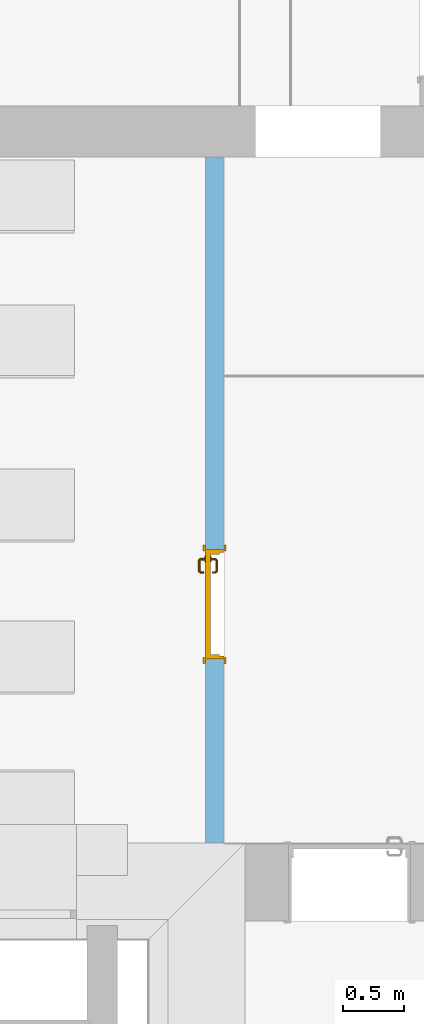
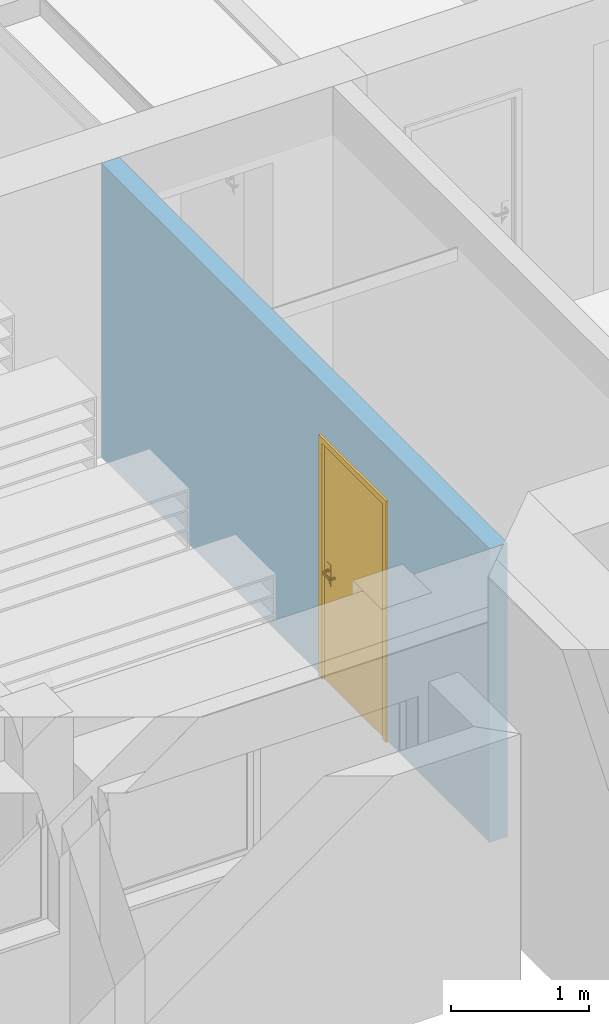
# One storey, part 48 of 127: 1 door, 1 opening, plus 1 element that does not belong to this part.
"""IFC2X3 building model written with IfcOpenShell, lengths in millimetres."""

from ifc_helpers import new_model, entity, si_unit, converted_unit, derived_unit, money_unit, direction, frame, origin_with_axes, origin_2d_with_axis, place, context, subcontext, project, spatial, polyline, rectangle, outline, extrude, open_shell, faceted_brep, surface_model, material, layer, layer_set, layer_usage, type_object, element, fill, save


model = new_model("IFC2X3")

# Units and contexts
model_context = context("Model", 3, precision=1e-05, world=origin_with_axes(), true_north=direction((0.0, 1.0)))
body_context = subcontext(model_context, "Body", "Model", "MODEL_VIEW")
ifc_project = project(units=[si_unit("LENGTHUNIT", "METRE", prefix="MILLI"), si_unit("AREAUNIT", "SQUARE_METRE"), si_unit("VOLUMEUNIT", "CUBIC_METRE"), converted_unit("PLANEANGLEUNIT", "DEGREE", entity("IfcPlaneAngleMeasure", 0.0174532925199), si_unit("PLANEANGLEUNIT", "RADIAN"), dimensions=[0, 0, 0, 0, 0, 0, 0]), si_unit("SOLIDANGLEUNIT", "STERADIAN"), money_unit("EUR"), converted_unit("TIMEUNIT", "Year", entity("IfcTimeMeasure", 31556926.0), si_unit("TIMEUNIT", "SECOND"), dimensions=[0, 0, 1, 0, 0, 0, 0]), si_unit("MASSUNIT", "GRAM", prefix="KILO"), si_unit("THERMODYNAMICTEMPERATUREUNIT", "DEGREE_CELSIUS"), si_unit("LUMINOUSINTENSITYUNIT", "LUMEN"), si_unit("ENERGYUNIT", "JOULE", prefix="MEGA"), derived_unit("THERMALCONDUCTANCEUNIT", [(si_unit("POWERUNIT", "WATT"), 1), (si_unit("LENGTHUNIT", "METRE"), -1), (si_unit("THERMODYNAMICTEMPERATUREUNIT", "KELVIN"), -1)]), derived_unit("SPECIFICHEATCAPACITYUNIT", [(si_unit("ENERGYUNIT", "JOULE"), 1), (si_unit("MASSUNIT", "GRAM", prefix="KILO"), -1), (si_unit("THERMODYNAMICTEMPERATUREUNIT", "KELVIN"), -1)]), derived_unit("MASSDENSITYUNIT", [(si_unit("MASSUNIT", "GRAM", prefix="KILO"), 1), (si_unit("VOLUMEUNIT", "CUBIC_METRE"), -1)])], contexts=[model_context])

# Site, building, storey
site_placement = place(None, origin_with_axes())
site = spatial("IfcSite", under=ifc_project, at=site_placement, Name="Site", CompositionType="ELEMENT")
building_placement = place(site_placement, origin_with_axes())
building = spatial("IfcBuilding", under=site, at=building_placement, Name="Building", CompositionType="ELEMENT")
storey_placement = place(building_placement, origin_with_axes())
storey = spatial("IfcBuildingStorey", under=building, at=storey_placement, Name="1 KORRUS", CompositionType="ELEMENT", Elevation=0.0)

# Wall, opening, door
ifc_material = material(Name="Kivi -Ol.Olev Konstruktsioon")
ifc_layer = layer(ifc_material, 150.0, ventilated="UNKNOWN")
ifc_layer_set = layer_set([ifc_layer], Name="ol.olev ss 150")
ifc_layer_usage = layer_usage(ifc_layer_set, "AXIS2", "POSITIVE", 0.0)
wall_type = type_object("IfcWallType", Name="SW - 036", PredefinedType="NOTDEFINED")
wall_placement = place(storey_placement, frame((37793.462216, 65636.3690561, 0.0), z_axis=(0.0, 0.0, 1.0), x_axis=(0.0, -1.0, 0.0)))
wall = element("IfcWallStandardCase", 1, at=wall_placement, inside=storey, type_object=wall_type, material=ifc_layer_usage, Name="ol.olev ss 150", context=body_context, shape_type="SweptSolid", body=[
    extrude(outline(polyline([(420.0, 0.0), (6047.24114854, 0.0), (6047.24114854, 150.0), (420.0, 150.0), (420.0, 0.0)])), origin_with_axes(), (0.0, 0.0, 1.0), 2600.0),
])
opening_placement = place(wall_placement, frame((4090.35977759, 0.0, 0.0), z_axis=(0.0, 0.0, 1.0), x_axis=(1.0, 0.0, 0.0)))
opening = element("IfcOpeningElement", 2, at=opening_placement, cuts=wall, Name="Siseuks * Door 22", context=body_context, shape_type="SweptSolid", body=[
    extrude(rectangle(XDim=900.0, YDim=2100.0, at=origin_2d_with_axis()), frame((0.0, 150.0, 1050.0), z_axis=(0.0, 1.0, 0.0), x_axis=(1.0, 0.0, 0.0)), (0.0, 0.0, -1.0), 450.0),
    extrude(rectangle(XDim=974.0, YDim=2137.0, at=origin_2d_with_axis()), frame((0.0, 150.0, 1068.5), z_axis=(0.0, 1.0, 0.0), x_axis=(1.0, 0.0, 0.0)), (0.0, 0.0, 1.0), 150.0),
    extrude(rectangle(XDim=974.0, YDim=2137.0, at=origin_2d_with_axis()), frame((0.0, 0.0, 1068.5), z_axis=(0.0, -1.0, 0.0), x_axis=(1.0, 0.0, 0.0)), (0.0, 0.0, 1.0), 150.0),
])
door_style = type_object("IfcDoorStyle", Name="SU-A116   900×2\xa0100", ConstructionType="NOTDEFINED", OperationType="SINGLE_SWING_LEFT", ParameterTakesPrecedence=False, Sizeable=False)
door_placement = place(opening_placement, frame((450.0, 0.0, 0.0), z_axis=(0.0, 0.0, 1.0), x_axis=(-1.0, 0.0, 0.0)))
door = element("IfcDoor", 3, at=door_placement, inside=storey, type_object=door_style, Name="Siseuks * Door 22", OverallHeight=2100.0, OverallWidth=900.0, context=body_context, shape_type="SurfaceModel", body=[
    faceted_brep([(900.0, -115.0, 0.0), (900.0, -150.0, 0.0), (875.0, -150.0, 0.0), (875.0, -115.0, 0.0), (900.0, -115.0, 2100.0), (900.0, -150.0, 2100.0), (875.0, -150.0, 2075.0), (875.0, -115.0, 2075.0)], [[[0, 1, 2, 3]], [[4, 5, 1, 0]], [[1, 5, 6, 2]], [[3, 2, 6, 7]], [[0, 3, 7, 4]], [[7, 6, 5, 4]]]),
    faceted_brep([(0.0, -115.0, 2100.0), (0.0, -150.0, 2100.0), (24.9999999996, -150.0, 2075.0), (24.9999999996, -115.0, 2075.0), (0.0, -115.0, 0.0), (0.0, -150.0, 0.0), (24.9999999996, -150.0, 0.0), (24.9999999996, -115.0, 0.0)], [[[0, 1, 2, 3]], [[4, 5, 1, 0]], [[1, 5, 6, 2]], [[3, 2, 6, 7]], [[0, 3, 7, 4]], [[7, 6, 5, 4]]]),
    faceted_brep([(875.0, -115.0, 2075.0), (875.0, -150.0, 2075.0), (24.9999999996, -150.0, 2075.0), (24.9999999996, -115.0, 2075.0), (900.0, -115.0, 2100.0), (900.0, -150.0, 2100.0), (0.0, -150.0, 2100.0), (0.0, -115.0, 2100.0)], [[[0, 1, 2, 3]], [[4, 5, 1, 0]], [[1, 5, 6, 2]], [[3, 2, 6, 7]], [[0, 3, 7, 4]], [[7, 6, 5, 4]]]),
    faceted_brep([(937.0, -169.0, 0.0), (887.0, -169.0, 0.0), (887.0, -150.0, 0.0), (937.0, -150.0, 0.0), (937.0, -169.0, 2137.0), (887.0, -169.0, 2087.0), (887.0, -150.0, 2087.0), (937.0, -150.0, 2137.0)], [[[0, 1, 2, 3]], [[0, 4, 5, 1]], [[1, 5, 6, 2]], [[3, 2, 6, 7]], [[4, 0, 3, 7]], [[5, 4, 7, 6]]]),
    faceted_brep([(-37.0000000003, -169.0, 2137.0), (12.9999999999, -169.0, 2087.0), (12.9999999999, -150.0, 2087.0), (-37.0000000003, -150.0, 2137.0), (-37.0000000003, -169.0, 0.0), (12.9999999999, -169.0, 0.0), (12.9999999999, -150.0, 0.0), (-37.0000000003, -150.0, 0.0)], [[[0, 1, 2, 3]], [[0, 4, 5, 1]], [[1, 5, 6, 2]], [[3, 2, 6, 7]], [[4, 0, 3, 7]], [[5, 4, 7, 6]]]),
    faceted_brep([(937.0, -169.0, 2137.0), (887.0, -169.0, 2087.0), (887.0, -150.0, 2087.0), (937.0, -150.0, 2137.0), (-37.0000000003, -169.0, 2137.0), (12.9999999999, -169.0, 2087.0), (12.9999999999, -150.0, 2087.0), (-37.0000000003, -150.0, 2137.0)], [[[0, 1, 2, 3]], [[0, 4, 5, 1]], [[1, 5, 6, 2]], [[3, 2, 6, 7]], [[4, 0, 3, 7]], [[5, 4, 7, 6]]]),
    faceted_brep([(937.0, 19.0, 0.0), (937.0, 0.0, 0.0), (887.0, 0.0, 0.0), (887.0, 19.0, 0.0), (937.0, 19.0, 2137.0), (937.0, 0.0, 2137.0), (887.0, 0.0, 2087.0), (887.0, 19.0, 2087.0)], [[[0, 1, 2, 3]], [[4, 5, 1, 0]], [[1, 5, 6, 2]], [[3, 2, 6, 7]], [[0, 3, 7, 4]], [[7, 6, 5, 4]]]),
    faceted_brep([(-37.0000000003, 19.0, 2137.0), (-37.0000000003, 0.0, 2137.0), (12.9999999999, 0.0, 2087.0), (12.9999999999, 19.0, 2087.0), (-37.0000000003, 19.0, 0.0), (-37.0000000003, 0.0, 0.0), (12.9999999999, 0.0, 0.0), (12.9999999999, 19.0, 0.0)], [[[0, 1, 2, 3]], [[4, 5, 1, 0]], [[1, 5, 6, 2]], [[3, 2, 6, 7]], [[0, 3, 7, 4]], [[7, 6, 5, 4]]]),
    faceted_brep([(937.0, 19.0, 2137.0), (937.0, 0.0, 2137.0), (887.0, 0.0, 2087.0), (887.0, 19.0, 2087.0), (-37.0000000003, 19.0, 2137.0), (-37.0000000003, 0.0, 2137.0), (12.9999999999, 0.0, 2087.0), (12.9999999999, 19.0, 2087.0)], [[[0, 1, 2, 3]], [[4, 5, 1, 0]], [[1, 5, 6, 2]], [[3, 2, 6, 7]], [[0, 3, 7, 4]], [[7, 6, 5, 4]]]),
    faceted_brep([(860.0, -40.0, 0.0), (860.0, -115.0, 0.0), (860.0, -115.0, 2060.0), (860.0, -40.0, 2060.0), (871.999999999, -40.0, 0.0), (871.999999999, 0.0, 0.0), (900.0, 0.0, 0.0), (900.0, -115.0, 0.0), (900.0, -115.0, 2060.0), (871.999999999, -40.0, 2060.0), (900.0, 0.0, 2060.0), (871.999999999, 0.0, 2060.0)], [[[0, 1, 2, 3]], [[4, 5, 6, 7, 1, 0]], [[1, 7, 8, 2]], [[9, 3, 2, 8, 10, 11]], [[9, 4, 0, 3]], [[11, 5, 4, 9]], [[11, 10, 6, 5]], [[6, 10, 8, 7]]]),
    faceted_brep([(28.0000000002, -40.0, 2060.0), (28.0000000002, 0.0, 2060.0), (0.0, 0.0, 2060.0), (0.0, -115.0, 2060.0), (40.0, -115.0, 2060.0), (40.0, -40.0, 2060.0), (28.0000000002, -40.0, 0.0), (28.0000000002, 0.0, 0.0), (0.0, 0.0, 0.0), (0.0, -115.0, 0.0), (40.0, -115.0, 0.0), (40.0, -40.0, 0.0)], [[[0, 1, 2, 3, 4, 5]], [[0, 6, 7, 1]], [[7, 8, 2, 1]], [[2, 8, 9, 3]], [[3, 9, 10, 4]], [[5, 4, 10, 11]], [[5, 11, 6, 0]], [[6, 11, 10, 9, 8, 7]]]),
    faceted_brep([(871.999999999, 0.0, 2072.0), (28.0000000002, 0.0, 2072.0), (28.0000000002, 0.0, 2060.0), (0.0, 0.0, 2060.0), (0.0, 0.0, 2100.0), (900.0, 0.0, 2100.0), (900.0, 0.0, 2060.0), (871.999999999, 0.0, 2060.0), (871.999999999, -40.0, 2072.0), (28.0000000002, -40.0, 2072.0), (28.0000000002, -40.0, 2060.0), (40.0, -40.0, 2060.0), (40.0, -115.0, 2060.0), (0.0, -115.0, 2060.0), (0.0, -115.0, 2100.0), (900.0, -115.0, 2100.0), (900.0, -115.0, 2060.0), (871.999999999, -40.0, 2060.0), (860.0, -115.0, 2060.0), (860.0, -40.0, 2060.0)], [[[0, 1, 2, 3, 4, 5, 6, 7]], [[0, 8, 9, 1]], [[1, 9, 10, 2]], [[10, 11, 12, 13, 3, 2]], [[4, 3, 13, 14]], [[5, 4, 14, 15]], [[6, 5, 15, 16]], [[17, 7, 6, 16, 18, 19]], [[7, 17, 8, 0]], [[10, 9, 8, 17, 19, 11]], [[19, 18, 12, 11]], [[12, 18, 16, 15, 14, 13]]]),
    faceted_brep([(850.5, -40.0, 1060.0), (793.5, -40.0, 1060.0), (793.5, -43.0, 1060.0), (850.5, -43.0, 1060.0), (850.5, -40.0, 870.0), (793.5, -40.0, 870.0), (793.5, -43.0, 870.0), (850.5, -43.0, 870.0)], [[[0, 1, 2, 3]], [[0, 4, 5, 1]], [[1, 5, 6, 2]], [[3, 2, 6, 7]], [[4, 0, 3, 7]], [[5, 4, 7, 6]]]),
    surface_model("IfcShellBasedSurfaceModel", [(812.0, -53.0, 1000.0), (814.928932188, -53.0, 992.928932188), (814.928932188, -72.303560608, 992.928932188), (812.0, -72.0150859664, 1000.0), (822.0, -53.0, 990.0), (822.0, -73.0, 990.0), (813.816790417, -77.8946748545, 992.928932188), (811.057796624, -76.7518622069, 1000.0), (814.928932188, -53.0, 1007.07106781), (814.928932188, -72.303560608, 1007.07106781), (829.071067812, -53.0, 992.928932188), (829.071067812, -73.6964393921, 992.928932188), (820.47759065, -80.6536686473, 990.0), (811.044179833, -82.0441798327, 992.928932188), (808.932537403, -79.9325374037, 1000.0), (813.816790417, -77.8946748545, 1007.07106781), (822.0, -53.0, 1010.0), (822.0, -73.0, 1010.0), (831.999999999, -53.0, 1000.0), (831.999999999, -73.9849140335, 1000.0), (827.138390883, -83.4126624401, 992.928932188), (816.142135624, -87.1421356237, 990.0), (806.894674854, -84.8167904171, 992.928932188), (805.751862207, -82.0577966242, 1000.0), (811.044179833, -82.0441798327, 1007.07106781), (820.47759065, -80.6536686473, 1010.0), (829.071067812, -53.0, 1007.07106781), (829.071067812, -73.6964393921, 1007.07106781), (829.897384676, -84.5554750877, 1000.0), (821.240091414, -92.2400914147, 992.928932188), (809.653668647, -91.4775906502, 990.0), (801.303560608, -85.9289321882, 992.928932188), (801.015085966, -83.0, 1000.0), (806.894674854, -84.8167904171, 1007.07106781), (816.142135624, -87.1421356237, 1010.0), (827.138390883, -83.4126624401, 1007.07106781), (823.351733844, -94.3517338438, 1000.0), (812.41266244, -98.1383908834, 992.928932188), (802.0, -93.0, 990.0), (732.696439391, -85.9289321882, 992.928932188), (732.984914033, -83.0, 1000.0), (801.303560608, -85.9289321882, 1007.07106781), (809.653668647, -91.4775906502, 1010.0), (821.240091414, -92.2400914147, 1007.07106781), (813.555475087, -100.897384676, 1000.0), (802.696439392, -100.071067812, 992.928932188), (732.0, -93.0, 990.0), (727.105325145, -84.8167904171, 992.928932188), (728.248137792, -82.0577966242, 1000.0), (732.696439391, -85.9289321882, 1007.07106781), (802.0, -93.0, 1010.0), (812.41266244, -98.1383908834, 1007.07106781), (802.984914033, -103.0, 1000.0), (731.303560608, -100.071067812, 992.928932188), (724.346331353, -91.4775906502, 990.0), (722.955820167, -82.0441798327, 992.928932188), (725.067462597, -79.9325374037, 1000.0), (727.105325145, -84.8167904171, 1007.07106781), (732.0, -93.0, 1010.0), (802.696439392, -100.071067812, 1007.07106781), (731.015085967, -103.0, 1000.0), (721.58733756, -98.1383908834, 992.928932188), (717.857864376, -87.1421356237, 990.0), (720.183209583, -77.8946748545, 992.928932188), (722.942203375, -76.7518622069, 1000.0), (722.955820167, -82.0441798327, 1007.07106781), (724.346331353, -91.4775906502, 1010.0), (731.303560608, -100.071067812, 1007.07106781), (720.444524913, -100.897384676, 1000.0), (712.759908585, -92.2400914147, 992.928932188), (713.52240935, -80.6536686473, 990.0), (719.071067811, -72.303560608, 992.928932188), (722.0, -72.0150859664, 1000.0), (720.183209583, -77.8946748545, 1007.07106781), (717.857864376, -87.1421356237, 1010.0), (721.58733756, -98.1383908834, 1007.07106781), (710.648266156, -94.3517338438, 1000.0), (706.861609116, -83.4126624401, 992.928932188), (712.0, -73.0, 990.0), (719.071067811, -53.0, 992.928932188), (722.0, -53.0, 1000.0), (719.071067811, -72.303560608, 1007.07106781), (713.52240935, -80.6536686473, 1010.0), (712.759908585, -92.2400914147, 1007.07106781), (704.102615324, -84.5554750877, 1000.0), (704.928932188, -73.6964393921, 992.928932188), (712.0, -53.0, 990.0), (704.928932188, -53.0, 992.928932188), (702.0, -53.0, 1000.0), (704.928932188, -53.0, 1007.07106781), (712.0, -53.0, 1010.0), (719.071067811, -53.0, 1007.07106781), (712.0, -73.0, 1010.0), (706.861609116, -83.4126624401, 1007.07106781), (702.0, -73.9849140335, 1000.0), (704.928932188, -73.6964393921, 1007.07106781)], [open_shell([[[0, 1, 2, 3]], [[1, 4, 5, 2]], [[3, 2, 6, 7]], [[8, 0, 3, 9]], [[4, 10, 11, 5]], [[2, 5, 12, 6]], [[7, 6, 13, 14]], [[9, 3, 7, 15]], [[16, 8, 9, 17]], [[10, 18, 19, 11]], [[5, 11, 20, 12]], [[6, 12, 21, 13]], [[14, 13, 22, 23]], [[15, 7, 14, 24]], [[17, 9, 15, 25]], [[26, 16, 17, 27]], [[18, 26, 27, 19]], [[11, 19, 28, 20]], [[12, 20, 29, 21]], [[13, 21, 30, 22]], [[23, 22, 31, 32]], [[24, 14, 23, 33]], [[25, 15, 24, 34]], [[27, 17, 25, 35]], [[19, 27, 35, 28]], [[20, 28, 36, 29]], [[21, 29, 37, 30]], [[22, 30, 38, 31]], [[32, 31, 39, 40]], [[33, 23, 32, 41]], [[34, 24, 33, 42]], [[35, 25, 34, 43]], [[28, 35, 43, 36]], [[29, 36, 44, 37]], [[30, 37, 45, 38]], [[31, 38, 46, 39]], [[40, 39, 47, 48]], [[41, 32, 40, 49]], [[42, 33, 41, 50]], [[43, 34, 42, 51]], [[36, 43, 51, 44]], [[37, 44, 52, 45]], [[38, 45, 53, 46]], [[39, 46, 54, 47]], [[48, 47, 55, 56]], [[49, 40, 48, 57]], [[50, 41, 49, 58]], [[51, 42, 50, 59]], [[44, 51, 59, 52]], [[45, 52, 60, 53]], [[46, 53, 61, 54]], [[47, 54, 62, 55]], [[56, 55, 63, 64]], [[57, 48, 56, 65]], [[58, 49, 57, 66]], [[59, 50, 58, 67]], [[52, 59, 67, 60]], [[53, 60, 68, 61]], [[54, 61, 69, 62]], [[55, 62, 70, 63]], [[64, 63, 71, 72]], [[65, 56, 64, 73]], [[66, 57, 65, 74]], [[67, 58, 66, 75]], [[60, 67, 75, 68]], [[61, 68, 76, 69]], [[62, 69, 77, 70]], [[63, 70, 78, 71]], [[72, 71, 79, 80]], [[73, 64, 72, 81]], [[74, 65, 73, 82]], [[75, 66, 74, 83]], [[68, 75, 83, 76]], [[69, 76, 84, 77]], [[70, 77, 85, 78]], [[71, 78, 86, 79]], [[80, 79, 86, 87, 88, 89, 90, 91]], [[81, 72, 80, 91]], [[82, 73, 81, 92]], [[83, 74, 82, 93]], [[76, 83, 93, 84]], [[77, 84, 94, 85]], [[78, 85, 87, 86]], [[85, 94, 88, 87]], [[94, 95, 89, 88]], [[95, 92, 90, 89]], [[92, 81, 91, 90]], [[93, 82, 92, 95]], [[84, 93, 95, 94]]])]),
    faceted_brep([(811.607695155, -53.0, 994.0), (809.999999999, -53.0, 1000.0), (809.0, -43.0, 1000.0), (810.74166975, -43.0, 993.5), (816.0, -53.0, 989.607695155), (822.0, -53.0, 988.0), (828.0, -53.0, 989.607695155), (832.392304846, -53.0, 994.0), (834.0, -53.0, 1000.0), (832.392304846, -53.0, 1006.0), (828.0, -53.0, 1010.39230485), (822.0, -53.0, 1012.0), (816.0, -53.0, 1010.39230485), (811.607695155, -53.0, 1006.0), (810.74166975, -43.0, 1006.5), (815.5, -43.0, 1011.25833025), (822.0, -43.0, 1013.0), (828.5, -43.0, 1011.25833025), (833.258330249, -43.0, 1006.5), (835.0, -43.0, 1000.0), (833.258330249, -43.0, 993.5), (828.5, -43.0, 988.741669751), (822.0, -43.0, 987.0), (815.5, -43.0, 988.741669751)], [[[0, 1, 2, 3]], [[1, 0, 4, 5, 6, 7, 8, 9, 10, 11, 12, 13]], [[1, 13, 14, 2]], [[2, 14, 15, 16, 17, 18, 19, 20, 21, 22, 23, 3]], [[4, 0, 3, 23]], [[5, 4, 23, 22]], [[6, 5, 22, 21]], [[7, 6, 21, 20]], [[8, 7, 20, 19]], [[9, 8, 19, 18]], [[10, 9, 18, 17]], [[11, 10, 17, 16]], [[12, 11, 16, 15]], [[13, 12, 15, 14]]]),
    faceted_brep([(804.679491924, -47.0, 895.0), (802.0, -47.0, 905.0), (800.0, -43.0, 905.0), (802.947441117, -43.0, 894.0), (812.0, -47.0, 887.679491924), (822.0, -47.0, 885.0), (831.999999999, -47.0, 887.679491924), (839.320508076, -47.0, 895.0), (842.0, -47.0, 905.0), (839.320508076, -47.0, 915.0), (831.999999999, -47.0, 922.320508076), (822.0, -47.0, 925.0), (812.0, -47.0, 922.320508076), (804.679491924, -47.0, 915.0), (802.947441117, -43.0, 916.0), (811.0, -43.0, 924.052558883), (822.0, -43.0, 927.0), (833.0, -43.0, 924.052558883), (841.052558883, -43.0, 916.0), (844.0, -43.0, 905.0), (841.052558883, -43.0, 894.0), (833.0, -43.0, 885.947441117), (822.0, -43.0, 883.0), (811.0, -43.0, 885.947441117)], [[[0, 1, 2, 3]], [[1, 0, 4, 5, 6, 7, 8, 9, 10, 11, 12, 13]], [[1, 13, 14, 2]], [[2, 14, 15, 16, 17, 18, 19, 20, 21, 22, 23, 3]], [[4, 0, 3, 23]], [[5, 4, 23, 22]], [[6, 5, 22, 21]], [[7, 6, 21, 20]], [[8, 7, 20, 19]], [[9, 8, 19, 18]], [[10, 9, 18, 17]], [[11, 10, 17, 16]], [[12, 11, 16, 15]], [[13, 12, 15, 14]]]),
    faceted_brep([(817.050252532, -49.0, 909.050252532), (815.0, -49.0, 914.0), (813.999999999, -47.0, 914.0), (816.343145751, -47.0, 908.343145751), (822.0, -49.0, 907.0), (826.949747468, -49.0, 909.050252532), (829.0, -49.0, 914.0), (826.949747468, -49.0, 918.949747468), (822.0, -49.0, 921.0), (817.050252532, -49.0, 918.949747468), (816.343145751, -47.0, 919.656854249), (822.0, -47.0, 922.0), (827.65685425, -47.0, 919.656854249), (830.0, -47.0, 914.0), (827.65685425, -47.0, 908.343145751), (822.0, -47.0, 906.0)], [[[0, 1, 2, 3]], [[1, 0, 4, 5, 6, 7, 8, 9]], [[1, 9, 10, 2]], [[2, 10, 11, 12, 13, 14, 15, 3]], [[4, 0, 3, 15]], [[5, 4, 15, 14]], [[6, 5, 14, 13]], [[7, 6, 13, 12]], [[8, 7, 12, 11]], [[9, 8, 11, 10]]]),
    faceted_brep([(850.5, 0.0, 1060.0), (850.5, 3.00000000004, 1060.0), (793.5, 3.00000000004, 1060.0), (793.5, 0.0, 1060.0), (850.5, 0.0, 870.0), (850.5, 3.00000000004, 870.0), (793.5, 3.00000000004, 870.0), (793.5, 0.0, 870.0)], [[[0, 1, 2, 3]], [[4, 5, 1, 0]], [[1, 5, 6, 2]], [[3, 2, 6, 7]], [[0, 3, 7, 4]], [[7, 6, 5, 4]]]),
    surface_model("IfcShellBasedSurfaceModel", [(812.0, 13.0, 1000.0), (812.0, 32.0150859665, 1000.0), (814.928932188, 32.3035606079, 992.928932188), (814.928932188, 13.0, 992.928932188), (814.928932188, 13.0, 1007.07106781), (814.928932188, 32.3035606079, 1007.07106781), (811.057796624, 36.751862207, 1000.0), (813.816790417, 37.8946748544, 992.928932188), (822.0, 33.0, 990.0), (822.0, 13.0, 990.0), (822.0, 13.0, 1010.0), (822.0, 33.0, 1010.0), (813.816790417, 37.8946748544, 1007.07106781), (808.932537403, 39.9325374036, 1000.0), (811.044179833, 42.0441798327, 992.928932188), (820.47759065, 40.6536686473, 990.0), (829.071067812, 33.696439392, 992.928932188), (829.071067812, 13.0, 992.928932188), (829.071067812, 13.0, 1007.07106781), (829.071067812, 33.696439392, 1007.07106781), (820.47759065, 40.6536686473, 1010.0), (811.044179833, 42.0441798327, 1007.07106781), (805.751862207, 42.0577966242, 1000.0), (806.894674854, 44.816790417, 992.928932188), (816.142135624, 47.1421356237, 990.0), (827.138390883, 43.4126624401, 992.928932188), (831.999999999, 33.9849140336, 1000.0), (831.999999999, 13.0, 1000.0), (827.138390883, 43.4126624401, 1007.07106781), (816.142135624, 47.1421356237, 1010.0), (806.894674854, 44.816790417, 1007.07106781), (801.015085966, 43.0, 1000.0), (801.303560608, 45.9289321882, 992.928932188), (809.653668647, 51.4775906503, 990.0), (821.240091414, 52.2400914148, 992.928932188), (829.897384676, 44.5554750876, 1000.0), (821.240091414, 52.2400914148, 1007.07106781), (809.653668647, 51.4775906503, 1010.0), (801.303560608, 45.9289321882, 1007.07106781), (732.984914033, 43.0, 1000.0), (732.696439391, 45.9289321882, 992.928932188), (802.0, 53.0, 990.0), (812.41266244, 58.1383908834, 992.928932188), (823.351733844, 54.3517338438, 1000.0), (812.41266244, 58.1383908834, 1007.07106781), (802.0, 53.0, 1010.0), (732.696439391, 45.9289321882, 1007.07106781), (728.248137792, 42.0577966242, 1000.0), (727.105325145, 44.816790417, 992.928932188), (732.0, 53.0, 990.0), (802.696439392, 60.0710678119, 992.928932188), (813.555475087, 60.8973846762, 1000.0), (802.696439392, 60.0710678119, 1007.07106781), (732.0, 53.0, 1010.0), (727.105325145, 44.816790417, 1007.07106781), (725.067462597, 39.9325374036, 1000.0), (722.955820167, 42.0441798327, 992.928932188), (724.346331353, 51.4775906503, 990.0), (731.303560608, 60.0710678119, 992.928932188), (802.984914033, 63.0, 1000.0), (731.303560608, 60.0710678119, 1007.07106781), (724.346331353, 51.4775906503, 1010.0), (722.955820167, 42.0441798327, 1007.07106781), (722.942203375, 36.751862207, 1000.0), (720.183209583, 37.8946748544, 992.928932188), (717.857864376, 47.1421356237, 990.0), (721.58733756, 58.1383908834, 992.928932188), (731.015085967, 63.0, 1000.0), (721.58733756, 58.1383908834, 1007.07106781), (717.857864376, 47.1421356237, 1010.0), (720.183209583, 37.8946748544, 1007.07106781), (722.0, 32.0150859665, 1000.0), (719.071067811, 32.3035606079, 992.928932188), (713.52240935, 40.6536686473, 990.0), (712.759908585, 52.2400914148, 992.928932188), (720.444524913, 60.8973846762, 1000.0), (712.759908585, 52.2400914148, 1007.07106781), (713.52240935, 40.6536686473, 1010.0), (719.071067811, 32.3035606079, 1007.07106781), (722.0, 13.0, 1000.0), (719.071067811, 13.0, 992.928932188), (712.0, 33.0, 990.0), (706.861609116, 43.4126624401, 992.928932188), (710.648266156, 54.3517338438, 1000.0), (706.861609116, 43.4126624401, 1007.07106781), (712.0, 33.0, 1010.0), (719.071067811, 13.0, 1007.07106781), (712.0, 13.0, 1010.0), (704.928932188, 13.0, 1007.07106781), (702.0, 13.0, 1000.0), (704.928932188, 13.0, 992.928932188), (712.0, 13.0, 990.0), (704.928932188, 33.696439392, 992.928932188), (704.102615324, 44.5554750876, 1000.0), (704.928932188, 33.696439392, 1007.07106781), (702.0, 33.9849140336, 1000.0)], [open_shell([[[0, 1, 2, 3]], [[4, 5, 1, 0]], [[1, 6, 7, 2]], [[3, 2, 8, 9]], [[10, 11, 5, 4]], [[5, 12, 6, 1]], [[6, 13, 14, 7]], [[2, 7, 15, 8]], [[9, 8, 16, 17]], [[18, 19, 11, 10]], [[11, 20, 12, 5]], [[12, 21, 13, 6]], [[13, 22, 23, 14]], [[7, 14, 24, 15]], [[8, 15, 25, 16]], [[17, 16, 26, 27]], [[27, 26, 19, 18]], [[19, 28, 20, 11]], [[20, 29, 21, 12]], [[21, 30, 22, 13]], [[22, 31, 32, 23]], [[14, 23, 33, 24]], [[15, 24, 34, 25]], [[16, 25, 35, 26]], [[26, 35, 28, 19]], [[28, 36, 29, 20]], [[29, 37, 30, 21]], [[30, 38, 31, 22]], [[31, 39, 40, 32]], [[23, 32, 41, 33]], [[24, 33, 42, 34]], [[25, 34, 43, 35]], [[35, 43, 36, 28]], [[36, 44, 37, 29]], [[37, 45, 38, 30]], [[38, 46, 39, 31]], [[39, 47, 48, 40]], [[32, 40, 49, 41]], [[33, 41, 50, 42]], [[34, 42, 51, 43]], [[43, 51, 44, 36]], [[44, 52, 45, 37]], [[45, 53, 46, 38]], [[46, 54, 47, 39]], [[47, 55, 56, 48]], [[40, 48, 57, 49]], [[41, 49, 58, 50]], [[42, 50, 59, 51]], [[51, 59, 52, 44]], [[52, 60, 53, 45]], [[53, 61, 54, 46]], [[54, 62, 55, 47]], [[55, 63, 64, 56]], [[48, 56, 65, 57]], [[49, 57, 66, 58]], [[50, 58, 67, 59]], [[59, 67, 60, 52]], [[60, 68, 61, 53]], [[61, 69, 62, 54]], [[62, 70, 63, 55]], [[63, 71, 72, 64]], [[56, 64, 73, 65]], [[57, 65, 74, 66]], [[58, 66, 75, 67]], [[67, 75, 68, 60]], [[68, 76, 69, 61]], [[69, 77, 70, 62]], [[70, 78, 71, 63]], [[71, 79, 80, 72]], [[64, 72, 81, 73]], [[65, 73, 82, 74]], [[66, 74, 83, 75]], [[75, 83, 76, 68]], [[76, 84, 77, 69]], [[77, 85, 78, 70]], [[78, 86, 79, 71]], [[79, 86, 87, 88, 89, 90, 91, 80]], [[72, 80, 91, 81]], [[73, 81, 92, 82]], [[74, 82, 93, 83]], [[83, 93, 84, 76]], [[84, 94, 85, 77]], [[85, 87, 86, 78]], [[94, 88, 87, 85]], [[95, 89, 88, 94]], [[92, 90, 89, 95]], [[81, 91, 90, 92]], [[82, 92, 95, 93]], [[93, 95, 94, 84]]])]),
    faceted_brep([(811.607695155, 13.0, 994.0), (810.74166975, 3.00000000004, 993.5), (809.0, 3.00000000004, 1000.0), (809.999999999, 13.0, 1000.0), (816.0, 13.0, 989.607695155), (815.5, 3.00000000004, 988.741669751), (822.0, 3.00000000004, 987.0), (828.5, 3.00000000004, 988.741669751), (833.258330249, 3.00000000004, 993.5), (835.0, 3.00000000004, 1000.0), (833.258330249, 3.00000000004, 1006.5), (828.5, 3.00000000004, 1011.25833025), (822.0, 3.00000000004, 1013.0), (815.5, 3.00000000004, 1011.25833025), (810.74166975, 3.00000000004, 1006.5), (811.607695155, 13.0, 1006.0), (816.0, 13.0, 1010.39230485), (822.0, 13.0, 1012.0), (828.0, 13.0, 1010.39230485), (832.392304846, 13.0, 1006.0), (834.0, 13.0, 1000.0), (832.392304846, 13.0, 994.0), (828.0, 13.0, 989.607695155), (822.0, 13.0, 988.0)], [[[0, 1, 2, 3]], [[4, 5, 1, 0]], [[2, 1, 5, 6, 7, 8, 9, 10, 11, 12, 13, 14]], [[3, 2, 14, 15]], [[3, 15, 16, 17, 18, 19, 20, 21, 22, 23, 4, 0]], [[23, 6, 5, 4]], [[22, 7, 6, 23]], [[21, 8, 7, 22]], [[20, 9, 8, 21]], [[19, 10, 9, 20]], [[18, 11, 10, 19]], [[17, 12, 11, 18]], [[16, 13, 12, 17]], [[15, 14, 13, 16]]]),
    faceted_brep([(804.679491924, 6.99999999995, 895.0), (802.947441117, 3.00000000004, 894.0), (800.0, 3.00000000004, 905.0), (802.0, 6.99999999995, 905.0), (812.0, 6.99999999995, 887.679491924), (811.0, 3.00000000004, 885.947441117), (822.0, 3.00000000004, 883.0), (833.0, 3.00000000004, 885.947441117), (841.052558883, 3.00000000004, 894.0), (844.0, 3.00000000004, 905.0), (841.052558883, 3.00000000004, 916.0), (833.0, 3.00000000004, 924.052558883), (822.0, 3.00000000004, 927.0), (811.0, 3.00000000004, 924.052558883), (802.947441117, 3.00000000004, 916.0), (804.679491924, 6.99999999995, 915.0), (812.0, 6.99999999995, 922.320508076), (822.0, 6.99999999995, 925.0), (831.999999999, 6.99999999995, 922.320508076), (839.320508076, 6.99999999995, 915.0), (842.0, 6.99999999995, 905.0), (839.320508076, 6.99999999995, 895.0), (831.999999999, 6.99999999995, 887.679491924), (822.0, 6.99999999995, 885.0)], [[[0, 1, 2, 3]], [[4, 5, 1, 0]], [[2, 1, 5, 6, 7, 8, 9, 10, 11, 12, 13, 14]], [[3, 2, 14, 15]], [[3, 15, 16, 17, 18, 19, 20, 21, 22, 23, 4, 0]], [[23, 6, 5, 4]], [[22, 7, 6, 23]], [[21, 8, 7, 22]], [[20, 9, 8, 21]], [[19, 10, 9, 20]], [[18, 11, 10, 19]], [[17, 12, 11, 18]], [[16, 13, 12, 17]], [[15, 14, 13, 16]]]),
    faceted_brep([(817.050252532, 9.00000000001, 909.050252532), (816.343145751, 6.99999999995, 908.343145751), (813.999999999, 6.99999999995, 914.0), (815.0, 9.00000000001, 914.0), (822.0, 9.00000000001, 907.0), (822.0, 6.99999999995, 906.0), (827.65685425, 6.99999999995, 908.343145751), (830.0, 6.99999999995, 914.0), (827.65685425, 6.99999999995, 919.656854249), (822.0, 6.99999999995, 922.0), (816.343145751, 6.99999999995, 919.656854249), (817.050252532, 9.00000000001, 918.949747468), (822.0, 9.00000000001, 921.0), (826.949747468, 9.00000000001, 918.949747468), (829.0, 9.00000000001, 914.0), (826.949747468, 9.00000000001, 909.050252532)], [[[0, 1, 2, 3]], [[4, 5, 1, 0]], [[2, 1, 5, 6, 7, 8, 9, 10]], [[3, 2, 10, 11]], [[3, 11, 12, 13, 14, 15, 4, 0]], [[15, 6, 5, 4]], [[14, 7, 6, 15]], [[13, 8, 7, 14]], [[12, 9, 8, 13]], [[11, 10, 9, 12]]]),
    faceted_brep([(28.0000000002, 0.0, 0.0), (871.999999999, 0.0, 0.0), (871.999999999, -40.0, 0.0), (28.0000000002, -40.0, 0.0), (28.0000000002, 0.0, 2072.0), (871.999999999, 0.0, 2072.0), (871.999999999, -40.0, 2072.0), (28.0000000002, -40.0, 2072.0)], [[[0, 1, 2, 3]], [[0, 4, 5, 1]], [[1, 5, 6, 2]], [[3, 2, 6, 7]], [[4, 0, 3, 7]], [[5, 4, 7, 6]]]),
])
fill(opening, door)

save(model, "model.ifc")
